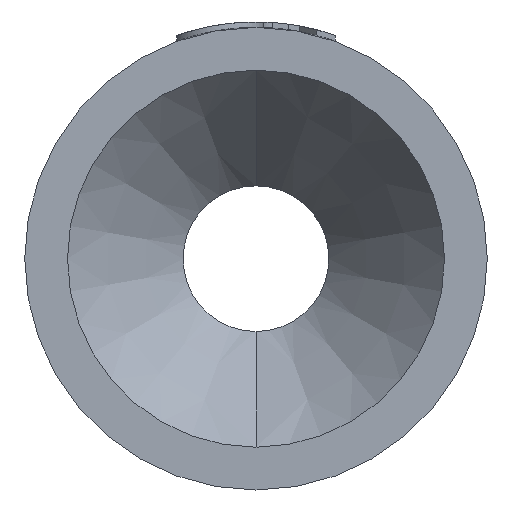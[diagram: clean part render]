
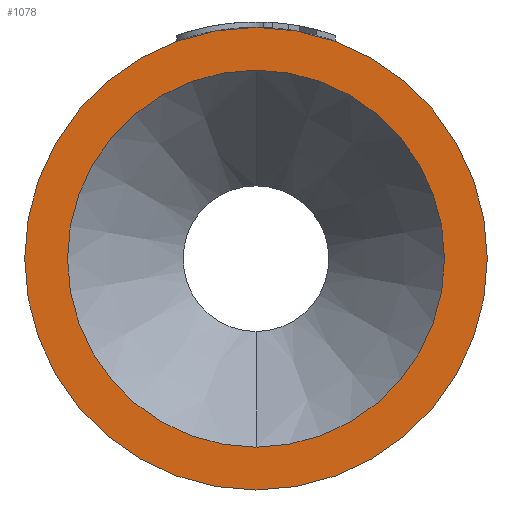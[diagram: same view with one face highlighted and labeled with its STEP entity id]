
A CAD part, left-side view. The second image highlights one B-rep face of the part: STEP entity #1078.
In plain terms, the highlighted planar face has unit normal (-1, 0, 0).
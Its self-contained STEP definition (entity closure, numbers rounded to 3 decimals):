
#125 = ORIENTED_EDGE ( 'NONE', *, *, #1772, .T. ) ;
#163 = CARTESIAN_POINT ( 'NONE',  ( 0., 0., -16.3 ) ) ;
#251 = EDGE_CURVE ( 'NONE', #1761, #312, #3240, .T. ) ;
#262 = DIRECTION ( 'NONE',  ( -1., 0., 0. ) ) ;
#298 = DIRECTION ( 'NONE',  ( 0., 0., 1. ) ) ;
#309 = CARTESIAN_POINT ( 'NONE',  ( 0., 0., 0. ) ) ;
#312 = VERTEX_POINT ( 'NONE', #163 ) ;
#537 = VERTEX_POINT ( 'NONE', #2789 ) ;
#607 = AXIS2_PLACEMENT_3D ( 'NONE', #1119, #1118, #1116 ) ;
#647 = EDGE_LOOP ( 'NONE', ( #125, #1967 ) ) ;
#657 = CIRCLE ( 'NONE', #607, 20. ) ;
#669 = DIRECTION ( 'NONE',  ( 0., 0., 1. ) ) ;
#673 = DIRECTION ( 'NONE',  ( -1., 0., 0. ) ) ;
#678 = CARTESIAN_POINT ( 'NONE',  ( 0., 0., 0. ) ) ;
#714 = CARTESIAN_POINT ( 'NONE',  ( 0., 16.3, 0. ) ) ;
#870 = EDGE_CURVE ( 'NONE', #2567, #537, #657, .T. ) ;
#930 = CARTESIAN_POINT ( 'NONE',  ( 0., 0., 16.3 ) ) ;
#1078 = ADVANCED_FACE ( 'NONE', ( #1370, #1214 ), #2421, .F. ) ;
#1116 = DIRECTION ( 'NONE',  ( 0., 0., 1. ) ) ;
#1118 = DIRECTION ( 'NONE',  ( -1., 0., 0. ) ) ;
#1119 = CARTESIAN_POINT ( 'NONE',  ( 0., 0., 0. ) ) ;
#1214 = FACE_OUTER_BOUND ( 'NONE', #647, .T. ) ;
#1370 = FACE_BOUND ( 'NONE', #3176, .T. ) ;
#1476 = CIRCLE ( 'NONE', #2464, 20. ) ;
#1761 = VERTEX_POINT ( 'NONE', #930 ) ;
#1772 = EDGE_CURVE ( 'NONE', #537, #2567, #1476, .T. ) ;
#1817 = DIRECTION ( 'NONE',  ( 0., 0., -1. ) ) ;
#1827 = DIRECTION ( 'NONE',  ( 1., 0., 0. ) ) ;
#1966 = EDGE_CURVE ( 'NONE', #312, #1761, #2334, .T. ) ;
#1967 = ORIENTED_EDGE ( 'NONE', *, *, #870, .T. ) ;
#2334 = CIRCLE ( 'NONE', #2372, 16.3 ) ;
#2372 = AXIS2_PLACEMENT_3D ( 'NONE', #3171, #3161, #3142 ) ;
#2421 = PLANE ( 'NONE',  #2774 ) ;
#2461 = ORIENTED_EDGE ( 'NONE', *, *, #251, .F. ) ;
#2464 = AXIS2_PLACEMENT_3D ( 'NONE', #678, #673, #669 ) ;
#2567 = VERTEX_POINT ( 'NONE', #3151 ) ;
#2774 = AXIS2_PLACEMENT_3D ( 'NONE', #714, #1827, #1817 ) ;
#2789 = CARTESIAN_POINT ( 'NONE',  ( 0., 0., 20. ) ) ;
#2818 = ORIENTED_EDGE ( 'NONE', *, *, #1966, .F. ) ;
#2957 = AXIS2_PLACEMENT_3D ( 'NONE', #309, #262, #298 ) ;
#3142 = DIRECTION ( 'NONE',  ( 0., 0., 1. ) ) ;
#3151 = CARTESIAN_POINT ( 'NONE',  ( 0., 0., -20. ) ) ;
#3161 = DIRECTION ( 'NONE',  ( -1., 0., 0. ) ) ;
#3171 = CARTESIAN_POINT ( 'NONE',  ( 0., 0., 0. ) ) ;
#3176 = EDGE_LOOP ( 'NONE', ( #2461, #2818 ) ) ;
#3240 = CIRCLE ( 'NONE', #2957, 16.3 ) ;
